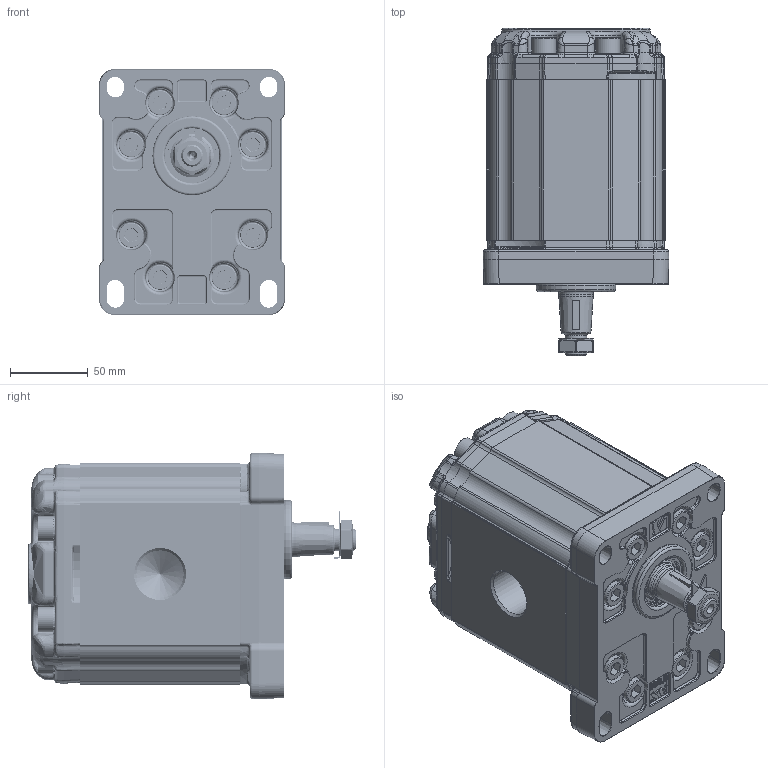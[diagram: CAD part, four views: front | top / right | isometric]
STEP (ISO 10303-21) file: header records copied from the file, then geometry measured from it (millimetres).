
FILE_DESCRIPTION(/* description */ ('Unknown'),/* implementation_level */ '2;1');
FILE_NAME(/* name */ 'X3P8301AFEA',/* time_stamp */ '2023-09-08T14:39:24+02:00',/* author */ ('Unknown'),/* organization */ ('Unknown'),/* preprocessor_version */ 'ST-DEVELOPER v16.7',/* originating_system */ 'Solid Edge',/* authorisation */ 'Unknown');
FILE_SCHEMA (('AUTOMOTIVE_DESIGN {1 0 10303 214 3 1 1}'));
Products named in the file (5): X3P8301AFEA; X3P01; 3A; X3FEH103; XP301-A
Assembly tree (4 placements, depth 2):
  X3P8301AFEA
    X3P01
    3A
    X3FEH103
    XP301-A
Bounding box: 119.2 x 210 x 157.8 mm (x, y, z)
Volume: 2323884.7 mm3; surface area: 230055.1 mm2
Topology: 4 solids, 5 shells, 4573 faces, 14020 edges, 8763 vertices
Faces by surface type: cylinder 1834, plane 1392, bspline 997, torus 200, cone 137, sphere 13
Full cylindrical faces by diameter (mm): 2 x2, 10 x16, 10.35 x30, 10.5 x1, 14 x2, 15.8 x16, 16 x16, 22 x1, 24.98 x1, 25 x2, 25.968 x1, 28.16 x1, 30.291 x1, 31 x1, 31.293 x1, 32.742 x1, 34.956 x1, 35 x1, 35.2 x1, 37 x1, 38.952 x1, 50.8 x1
Entity records: 310247 total; most frequent: CARTESIAN_POINT 163731, ORIENTED_EDGE 27124, DIRECTION 20337, EDGE_CURVE 13562, VERTEX_POINT 8626, AXIS2_PLACEMENT_3D 7739, FACE_BOUND 5020, EDGE_LOOP 5016
